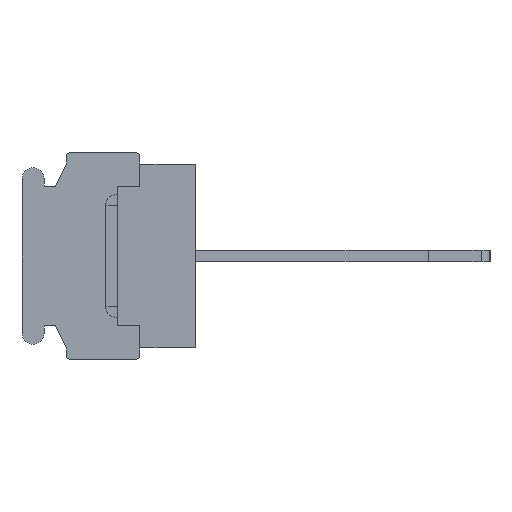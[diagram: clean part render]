
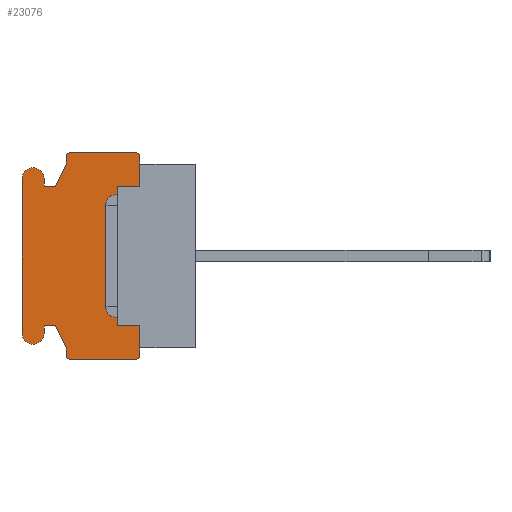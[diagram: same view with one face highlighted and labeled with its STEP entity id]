
A CAD part, left-side view. The second image highlights one B-rep face of the part: STEP entity #23076.
In plain terms, the highlighted planar face has unit normal (-1, 0, 0).
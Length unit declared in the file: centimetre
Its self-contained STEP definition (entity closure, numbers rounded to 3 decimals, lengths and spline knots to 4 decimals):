
#1362=PLANE('',#37539);
#2111=VECTOR('',#24419,1.);
#3566=VECTOR('',#27477,1.);
#3567=VECTOR('',#27478,1.);
#3568=VECTOR('',#27481,1.);
#3569=VECTOR('',#27484,1.);
#3570=VECTOR('',#27485,1.);
#3571=VECTOR('',#27486,1.);
#3572=VECTOR('',#27487,1.);
#3573=VECTOR('',#27490,1.);
#3574=VECTOR('',#27493,1.);
#3575=VECTOR('',#27494,1.);
#3576=VECTOR('',#27495,1.);
#3577=VECTOR('',#27496,1.);
#3578=VECTOR('',#27499,1.);
#3579=VECTOR('',#27502,1.);
#3580=VECTOR('',#27503,1.);
#3581=VECTOR('',#27504,1.);
#3582=VECTOR('',#27505,1.);
#4611=LINE('',#30241,#2111);
#6066=LINE('',#34558,#3566);
#6067=LINE('',#34560,#3567);
#6068=LINE('',#34564,#3568);
#6069=LINE('',#34568,#3569);
#6070=LINE('',#34570,#3570);
#6071=LINE('',#34572,#3571);
#6072=LINE('',#34574,#3572);
#6073=LINE('',#34578,#3573);
#6074=LINE('',#34582,#3574);
#6075=LINE('',#34584,#3575);
#6076=LINE('',#34586,#3576);
#6077=LINE('',#34588,#3577);
#6078=LINE('',#34592,#3578);
#6079=LINE('',#34596,#3579);
#6080=LINE('',#34597,#3580);
#6081=LINE('',#34599,#3581);
#6082=LINE('',#34600,#3582);
#7050=VERTEX_POINT('',#30242);
#7051=VERTEX_POINT('',#30243);
#7154=VERTEX_POINT('',#30531);
#7195=VERTEX_POINT('',#30618);
#8380=VERTEX_POINT('',#34559);
#8381=VERTEX_POINT('',#34561);
#8382=VERTEX_POINT('',#34563);
#8383=VERTEX_POINT('',#34565);
#8384=VERTEX_POINT('',#34567);
#8385=VERTEX_POINT('',#34569);
#8386=VERTEX_POINT('',#34571);
#8387=VERTEX_POINT('',#34573);
#8388=VERTEX_POINT('',#34575);
#8389=VERTEX_POINT('',#34577);
#8390=VERTEX_POINT('',#34579);
#8391=VERTEX_POINT('',#34581);
#8392=VERTEX_POINT('',#34583);
#8393=VERTEX_POINT('',#34585);
#8394=VERTEX_POINT('',#34587);
#8395=VERTEX_POINT('',#34589);
#8396=VERTEX_POINT('',#34591);
#8397=VERTEX_POINT('',#34593);
#8398=VERTEX_POINT('',#34595);
#8399=VERTEX_POINT('',#34598);
#9160=CIRCLE('',#37540,0.02);
#9161=CIRCLE('',#37541,0.02);
#9162=CIRCLE('',#37542,0.075);
#9163=CIRCLE('',#37543,0.075);
#9164=CIRCLE('',#37544,0.02);
#9165=CIRCLE('',#37545,0.02);
#9968=EDGE_CURVE('',#7050,#7051,#4611,.T.);
#11991=EDGE_CURVE('',#8380,#7154,#6066,.T.);
#11992=EDGE_CURVE('',#8381,#7154,#6067,.T.);
#11993=EDGE_CURVE('',#8382,#8381,#9160,.T.);
#11994=EDGE_CURVE('',#8383,#8382,#6068,.T.);
#11995=EDGE_CURVE('',#8384,#8383,#9161,.T.);
#11996=EDGE_CURVE('',#8385,#8384,#6069,.T.);
#11997=EDGE_CURVE('',#8386,#8385,#6070,.T.);
#11998=EDGE_CURVE('',#8387,#8386,#6071,.T.);
#11999=EDGE_CURVE('',#8388,#8387,#6072,.T.);
#12000=EDGE_CURVE('',#8389,#8388,#9162,.T.);
#12001=EDGE_CURVE('',#8390,#8389,#6073,.T.);
#12002=EDGE_CURVE('',#8391,#8390,#9163,.T.);
#12003=EDGE_CURVE('',#8392,#8391,#6074,.T.);
#12004=EDGE_CURVE('',#8393,#8392,#6075,.T.);
#12005=EDGE_CURVE('',#8394,#8393,#6076,.T.);
#12006=EDGE_CURVE('',#8395,#8394,#6077,.T.);
#12007=EDGE_CURVE('',#8396,#8395,#9164,.T.);
#12008=EDGE_CURVE('',#8397,#8396,#6078,.T.);
#12009=EDGE_CURVE('',#8398,#8397,#9165,.T.);
#12010=EDGE_CURVE('',#7195,#8398,#6079,.T.);
#12011=EDGE_CURVE('',#7195,#8399,#6080,.T.);
#12012=EDGE_CURVE('',#8399,#7050,#6081,.T.);
#12013=EDGE_CURVE('',#7051,#8380,#6082,.T.);
#18161=ORIENTED_EDGE('',*,*,#11991,.T.);
#18162=ORIENTED_EDGE('',*,*,#11992,.F.);
#18163=ORIENTED_EDGE('',*,*,#11993,.F.);
#18164=ORIENTED_EDGE('',*,*,#11994,.F.);
#18165=ORIENTED_EDGE('',*,*,#11995,.F.);
#18166=ORIENTED_EDGE('',*,*,#11996,.F.);
#18167=ORIENTED_EDGE('',*,*,#11997,.F.);
#18168=ORIENTED_EDGE('',*,*,#11998,.F.);
#18169=ORIENTED_EDGE('',*,*,#11999,.F.);
#18170=ORIENTED_EDGE('',*,*,#12000,.F.);
#18171=ORIENTED_EDGE('',*,*,#12001,.F.);
#18172=ORIENTED_EDGE('',*,*,#12002,.F.);
#18173=ORIENTED_EDGE('',*,*,#12003,.F.);
#18174=ORIENTED_EDGE('',*,*,#12004,.F.);
#18175=ORIENTED_EDGE('',*,*,#12005,.F.);
#18176=ORIENTED_EDGE('',*,*,#12006,.F.);
#18177=ORIENTED_EDGE('',*,*,#12007,.F.);
#18178=ORIENTED_EDGE('',*,*,#12008,.F.);
#18179=ORIENTED_EDGE('',*,*,#12009,.F.);
#18180=ORIENTED_EDGE('',*,*,#12010,.F.);
#18181=ORIENTED_EDGE('',*,*,#12011,.T.);
#18182=ORIENTED_EDGE('',*,*,#12012,.T.);
#18183=ORIENTED_EDGE('',*,*,#9968,.T.);
#18184=ORIENTED_EDGE('',*,*,#12013,.T.);
#20444=EDGE_LOOP('',(#18161,#18162,#18163,#18164,#18165,#18166,#18167,#18168,
#18169,#18170,#18171,#18172,#18173,#18174,#18175,#18176,#18177,#18178,#18179,
#18180,#18181,#18182,#18183,#18184));
#21802=FACE_BOUND('',#20444,.T.);
#23076=ADVANCED_FACE('',(#21802),#1362,.F.);
#24419=DIRECTION('',(0.,0.,1.));
#27476=DIRECTION('',(1.,0.,0.));
#27477=DIRECTION('',(0.,0.,1.));
#27478=DIRECTION('',(0.,0.,-1.));
#27479=DIRECTION('',(1.,0.,0.));
#27480=DIRECTION('',(0.,0.,-0.02));
#27481=DIRECTION('',(0.,-1.,0.));
#27482=DIRECTION('',(1.,0.,0.));
#27483=DIRECTION('',(0.,0.,-0.02));
#27484=DIRECTION('',(0.,0.,1.));
#27485=DIRECTION('',(0.,-0.447,0.894));
#27486=DIRECTION('',(0.,-1.,0.));
#27487=DIRECTION('',(0.,0.,-1.));
#27488=DIRECTION('',(1.,0.,0.));
#27489=DIRECTION('',(0.,0.,-0.075));
#27490=DIRECTION('',(0.,0.,1.));
#27491=DIRECTION('',(1.,0.,0.));
#27492=DIRECTION('',(0.,0.,-0.075));
#27493=DIRECTION('',(0.,0.,-1.));
#27494=DIRECTION('',(0.,1.,0.));
#27495=DIRECTION('',(0.,0.447,0.894));
#27496=DIRECTION('',(0.,0.,1.));
#27497=DIRECTION('',(1.,0.,0.));
#27498=DIRECTION('',(0.,0.,-0.02));
#27499=DIRECTION('',(0.,1.,0.));
#27500=DIRECTION('',(1.,0.,0.));
#27501=DIRECTION('',(0.,0.,-0.02));
#27502=DIRECTION('',(0.,0.,-1.));
#27503=DIRECTION('',(0.,0.,1.));
#27504=DIRECTION('',(0.,1.,0.));
#27505=DIRECTION('',(0.,-1.,0.));
#30241=CARTESIAN_POINT('',(-0.762,0.53,0.));
#30242=CARTESIAN_POINT('',(-0.762,0.53,-0.475));
#30243=CARTESIAN_POINT('',(-0.762,0.53,0.475));
#30531=CARTESIAN_POINT('',(-0.762,0.38,0.625));
#30618=CARTESIAN_POINT('',(-0.762,0.38,-0.625));
#34557=CARTESIAN_POINT('',(-0.762,0.6059,0.));
#34558=CARTESIAN_POINT('',(-0.762,0.38,0.275));
#34559=CARTESIAN_POINT('',(-0.762,0.38,0.475));
#34560=CARTESIAN_POINT('',(-0.762,0.38,0.68));
#34561=CARTESIAN_POINT('',(-0.762,0.38,0.68));
#34562=CARTESIAN_POINT('',(-0.762,0.4,0.68));
#34563=CARTESIAN_POINT('',(-0.762,0.4,0.7));
#34564=CARTESIAN_POINT('',(-0.762,0.86,0.7));
#34565=CARTESIAN_POINT('',(-0.762,0.86,0.7));
#34566=CARTESIAN_POINT('',(-0.762,0.86,0.68));
#34567=CARTESIAN_POINT('',(-0.762,0.88,0.68));
#34568=CARTESIAN_POINT('',(-0.762,0.88,0.625));
#34569=CARTESIAN_POINT('',(-0.762,0.88,0.625));
#34570=CARTESIAN_POINT('',(-0.762,0.955,0.475));
#34571=CARTESIAN_POINT('',(-0.762,0.955,0.475));
#34572=CARTESIAN_POINT('',(-0.762,1.03,0.475));
#34573=CARTESIAN_POINT('',(-0.762,1.03,0.475));
#34574=CARTESIAN_POINT('',(-0.762,1.03,0.525));
#34575=CARTESIAN_POINT('',(-0.762,1.03,0.525));
#34576=CARTESIAN_POINT('',(-0.762,1.105,0.525));
#34577=CARTESIAN_POINT('',(-0.762,1.18,0.525));
#34578=CARTESIAN_POINT('',(-0.762,1.18,-0.525));
#34579=CARTESIAN_POINT('',(-0.762,1.18,-0.525));
#34580=CARTESIAN_POINT('',(-0.762,1.105,-0.525));
#34581=CARTESIAN_POINT('',(-0.762,1.03,-0.525));
#34582=CARTESIAN_POINT('',(-0.762,1.03,-0.475));
#34583=CARTESIAN_POINT('',(-0.762,1.03,-0.475));
#34584=CARTESIAN_POINT('',(-0.762,0.955,-0.475));
#34585=CARTESIAN_POINT('',(-0.762,0.955,-0.475));
#34586=CARTESIAN_POINT('',(-0.762,0.88,-0.625));
#34587=CARTESIAN_POINT('',(-0.762,0.88,-0.625));
#34588=CARTESIAN_POINT('',(-0.762,0.88,-0.68));
#34589=CARTESIAN_POINT('',(-0.762,0.88,-0.68));
#34590=CARTESIAN_POINT('',(-0.762,0.86,-0.68));
#34591=CARTESIAN_POINT('',(-0.762,0.86,-0.7));
#34592=CARTESIAN_POINT('',(-0.762,0.4,-0.7));
#34593=CARTESIAN_POINT('',(-0.762,0.4,-0.7));
#34594=CARTESIAN_POINT('',(-0.762,0.4,-0.68));
#34595=CARTESIAN_POINT('',(-0.762,0.38,-0.68));
#34596=CARTESIAN_POINT('',(-0.762,0.38,-0.625));
#34597=CARTESIAN_POINT('',(-0.762,0.38,-0.275));
#34598=CARTESIAN_POINT('',(-0.762,0.38,-0.475));
#34599=CARTESIAN_POINT('',(-0.762,0.5304,-0.475));
#34600=CARTESIAN_POINT('',(-0.762,0.5304,0.475));
#37539=AXIS2_PLACEMENT_3D('',#34557,#27476,$);
#37540=AXIS2_PLACEMENT_3D('',#34562,#27479,#27480);
#37541=AXIS2_PLACEMENT_3D('',#34566,#27482,#27483);
#37542=AXIS2_PLACEMENT_3D('',#34576,#27488,#27489);
#37543=AXIS2_PLACEMENT_3D('',#34580,#27491,#27492);
#37544=AXIS2_PLACEMENT_3D('',#34590,#27497,#27498);
#37545=AXIS2_PLACEMENT_3D('',#34594,#27500,#27501);
